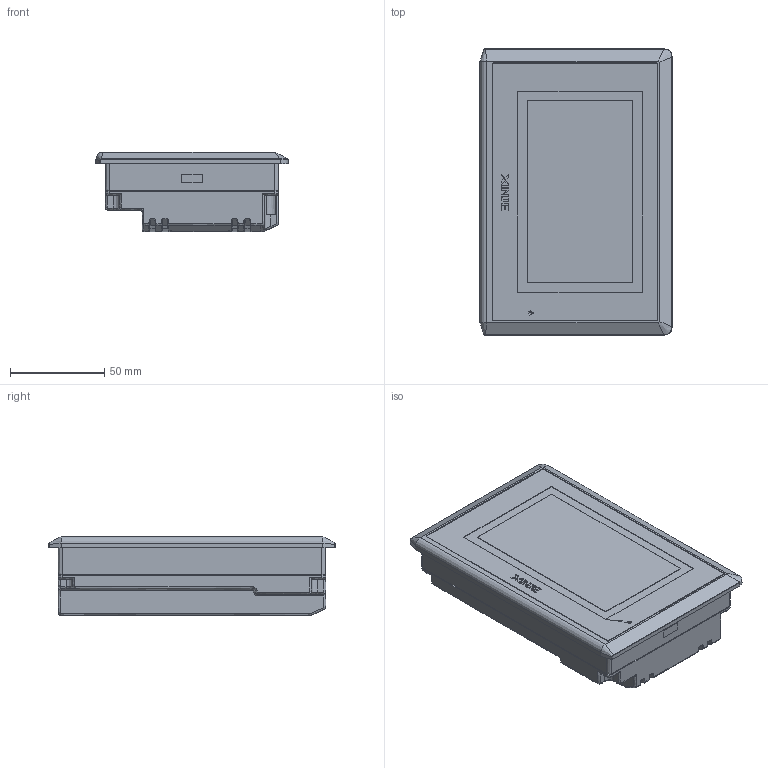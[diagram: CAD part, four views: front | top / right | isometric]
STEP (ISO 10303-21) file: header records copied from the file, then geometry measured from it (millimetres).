
FILE_DESCRIPTION(/* description */ (''),/* implementation_level */ '2;1');
FILE_NAME(/* name */ 'TG465-ET',/* time_stamp */ '2023-03-02T11:25:34+08:00',/* author */ (''),/* organization */ (''),/* preprocessor_version */ 'ST-DEVELOPER v16.5',/* originating_system */ '',/* authorisation */ '');
FILE_SCHEMA (('AUTOMOTIVE_DESIGN'));
Length unit declared in the file: millimetre
Products named in the file (1): Document
Bounding box: 102 x 152 x 42 mm (x, y, z)
Volume: 538114.8 mm3; surface area: 186495.5 mm2
Topology: 6 solids, 6 shells, 1055 faces, 4533 edges, 4216 vertices
Faces by surface type: bspline 665, plane 390
Entity records: 42723 total; most frequent: CARTESIAN_POINT 28955, COMPOSITE_CURVE_SEGMENT 3664, B_SPLINE_CURVE_WITH_KNOTS 3137, ORIENTED_EDGE 1696, EDGE_CURVE 848, CURVE_BOUNDED_SURFACE 741, OUTER_BOUNDARY_CURVE 741, VERTEX_POINT 554
